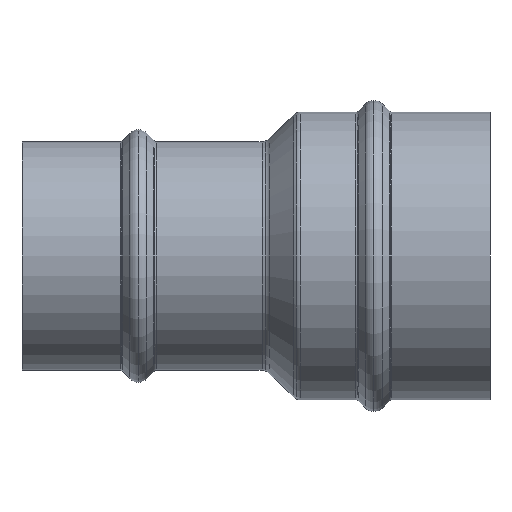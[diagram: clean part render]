
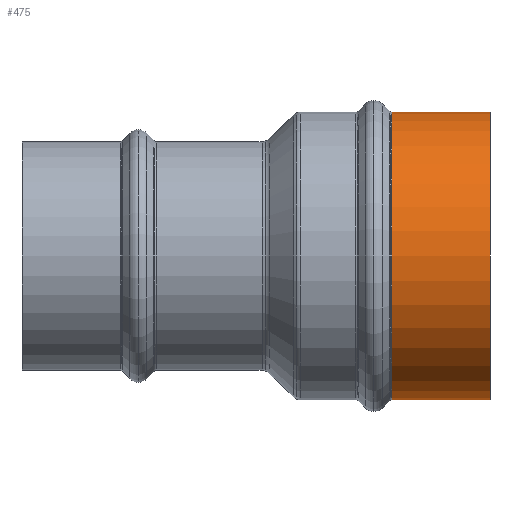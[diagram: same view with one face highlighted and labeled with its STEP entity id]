
A CAD part, front view. The second image highlights one B-rep face of the part: STEP entity #475.
In plain terms, the highlighted cylindrical face has radius 42.7 mm (diameter 85.4 mm), a partial arc.
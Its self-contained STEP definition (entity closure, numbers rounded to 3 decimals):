
#202=CYLINDRICAL_SURFACE('',#1740,42.7);
#301=FACE_OUTER_BOUND('',#585,.T.);
#319=LINE('',#2520,#355);
#320=LINE('',#2522,#356);
#355=VECTOR('',#2022,1.);
#356=VECTOR('',#2023,1.);
#475=ADVANCED_FACE('',(#301),#202,.T.);
#585=EDGE_LOOP('',(#987,#988,#989,#990));
#987=ORIENTED_EDGE('',*,*,#1199,.T.);
#988=ORIENTED_EDGE('',*,*,#1302,.F.);
#989=ORIENTED_EDGE('',*,*,#1198,.F.);
#990=ORIENTED_EDGE('',*,*,#1201,.F.);
#1045=VERTEX_POINT('',#2515);
#1046=VERTEX_POINT('',#2517);
#1047=VERTEX_POINT('',#2521);
#1048=VERTEX_POINT('',#2523);
#1198=EDGE_CURVE('',#1047,#1045,#319,.T.);
#1199=EDGE_CURVE('',#1048,#1046,#320,.T.);
#1201=EDGE_CURVE('',#1048,#1047,#1387,.T.);
#1302=EDGE_CURVE('',#1045,#1046,#1470,.T.);
#1387=CIRCLE('',#1605,42.7);
#1470=CIRCLE('',#1739,42.7);
#1605=AXIS2_PLACEMENT_3D('',#2526,#2028,#2029);
#1739=AXIS2_PLACEMENT_3D('',#2728,#2314,#2315);
#1740=AXIS2_PLACEMENT_3D('',#2729,#2316,#2317);
#2022=DIRECTION('',(-1.,0.,0.));
#2023=DIRECTION('',(-1.,0.,0.));
#2028=DIRECTION('',(1.,0.,0.));
#2029=DIRECTION('',(0.,0.,1.));
#2314=DIRECTION('',(-1.,0.,0.));
#2315=DIRECTION('',(0.,0.,-1.));
#2316=DIRECTION('',(-1.,0.,0.));
#2317=DIRECTION('',(0.,0.,-1.));
#2515=CARTESIAN_POINT('',(1138.99,556.047,-42.7));
#2517=CARTESIAN_POINT('',(1138.99,556.047,42.7));
#2520=CARTESIAN_POINT('',(1168.126,556.047,-42.7));
#2521=CARTESIAN_POINT('',(1168.126,556.047,-42.7));
#2522=CARTESIAN_POINT('',(1168.126,556.047,42.7));
#2523=CARTESIAN_POINT('',(1168.126,556.047,42.7));
#2526=CARTESIAN_POINT('',(1168.126,556.047,0.));
#2728=CARTESIAN_POINT('',(1138.99,556.047,0.));
#2729=CARTESIAN_POINT('',(1168.126,556.047,0.));
